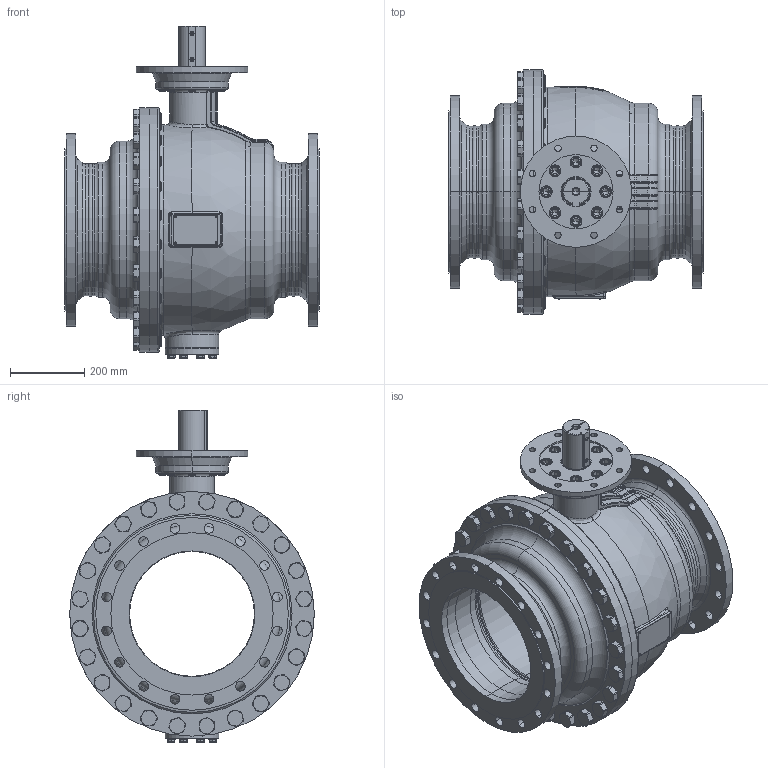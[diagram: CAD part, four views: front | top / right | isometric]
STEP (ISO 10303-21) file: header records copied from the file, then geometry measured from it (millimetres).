
FILE_DESCRIPTION((''),'2;1');
FILE_NAME('KHI-F_350_PN016-F25-P_SW0001','2026-02-05T15:25:16',('fischerkl'),('KLINGER'),'CREO PARAMETRIC BY PTC INC, 2023014','CREO PARAMETRIC BY PTC INC, 2023014','');
FILE_SCHEMA(('CONFIG_CONTROL_DESIGN'));
Products named in the file (1): KHI-F_350_PN016-F25-P_SW0001
Bounding box: 686 x 660 x 895.8 mm (x, y, z)
Volume: 42780776.2 mm3; surface area: 5865866.3 mm2
Topology: 1 solids, 4 shells, 3414 faces, 8622 edges, 5384 vertices
Faces by surface type: plane 1743, cylinder 799, cone 448, torus 295, bspline 99, sphere 30
Entity records: 144149 total; most frequent: CARTESIAN_POINT 62725, ORIENTED_EDGE 17192, DIRECTION 16862, EDGE_CURVE 8596, AXIS2_PLACEMENT_3D 6429, VERTEX_POINT 5384, VECTOR 4004, LINE 4004
